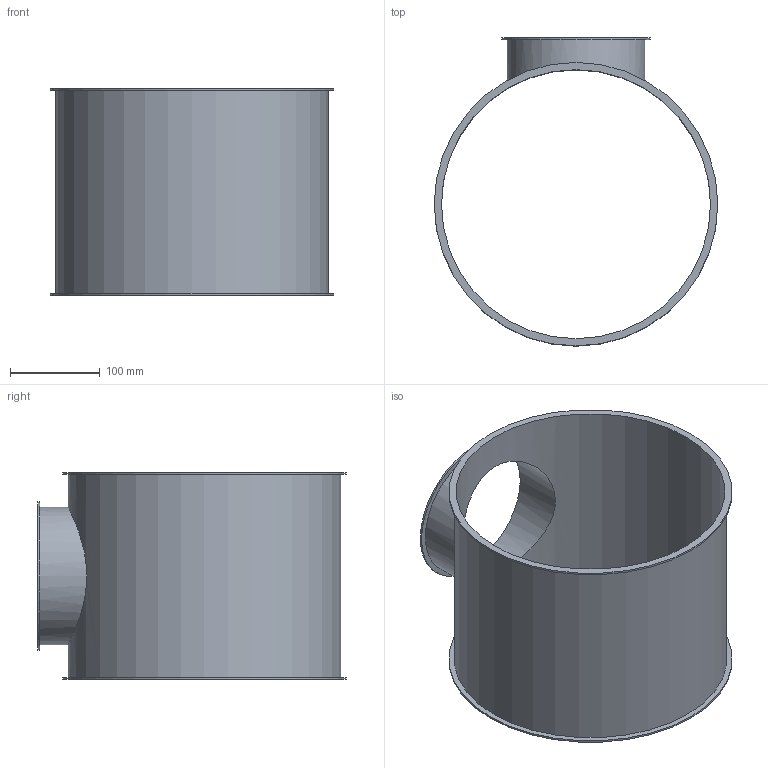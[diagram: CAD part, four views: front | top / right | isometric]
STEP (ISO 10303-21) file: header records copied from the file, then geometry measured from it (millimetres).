
FILE_DESCRIPTION((''),'2;1');
FILE_NAME('U:\Wolfgang\Marcel-3D\fertig\Kapitel 4\3021039.stp','2011-04-21T08:25:47',('TK1'),(''),'Autodesk Inventor 2010','Autodesk Inventor 2010','');
FILE_SCHEMA(('AUTOMOTIVE_DESIGN { 1 0 10303 214 1 1 1 1 }'));
Length unit declared in the file: millimetre
Products named in the file (1): 3021039
Bounding box: 315 x 342.5 x 230 mm (x, y, z)
Volume: 462496.9 mm3; surface area: 474469.4 mm2
Topology: 1 solids, 1 shells, 13 faces, 23 edges, 16 vertices
Faces by surface type: cylinder 7, plane 6
Full cylindrical faces by diameter (mm): 149 x1, 153 x1, 165 x1, 299 x1, 303 x1, 315 x2
Entity records: 432 total; most frequent: CARTESIAN_POINT 172, DIRECTION 52, ORIENTED_EDGE 28, EDGE_LOOP 28, AXIS2_PLACEMENT_3D 26, FACE_BOUND 15, VERTEX_POINT 14, EDGE_CURVE 14
